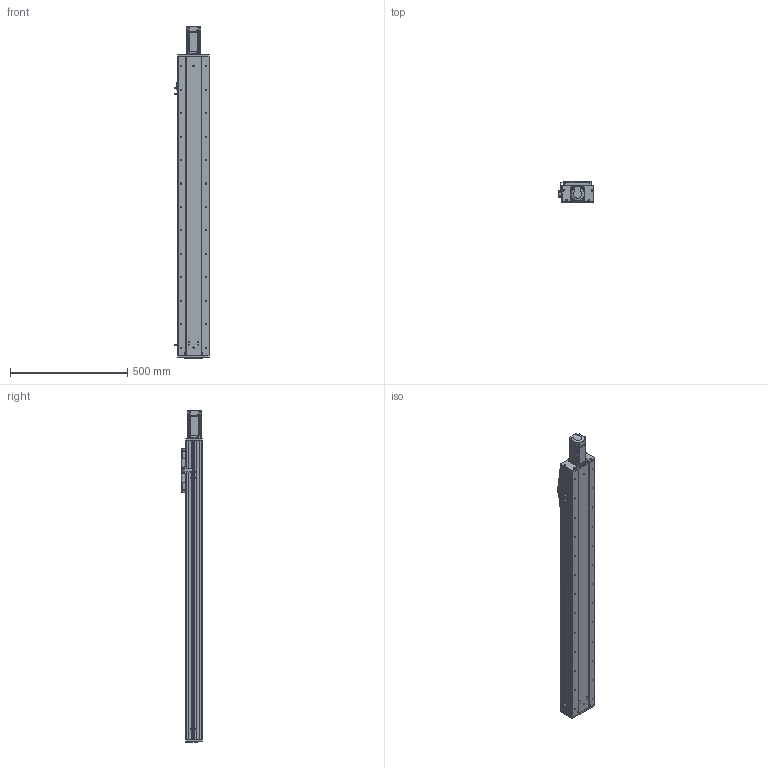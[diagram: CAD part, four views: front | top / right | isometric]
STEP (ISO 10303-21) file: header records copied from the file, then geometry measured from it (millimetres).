
FILE_DESCRIPTION (( 'STEP AP203' ), '1' );
FILE_NAME ('RY140F-L2020-300-MK.SLDASM_1000.step', '2021-03-02T06:24:25', ( '盈信电脑' ), ( '东莞市道滘镇水果街19号' ), 'SwSTEP 2.0', 'SolidWorks 2012', '' );
FILE_SCHEMA (( 'CONFIG_CONTROL_DESIGN' ));
Length unit declared in the file: millimetre
Products named in the file (18): RY140F-L2020-300-MK.SLDASM_1000; 侐源滅袉蝶; 滅袉蝶18-10; RY140F-詩湍揤え; RY140F-672覜茼んえ; 覜茼ん672; 侂狟400W侜督萇儂; 15; RY140F-直连前盖板(铝件）; RY140F-后盖板(铝件）; RY140F-直连型材铝滑块(16丝杆); RY100F-詩湍揤踡謫; RY140F-滅鳥奻裔; RY140F-直连型材铝滑块连接座; RY140F-詩湍幗謫粣; RY140F-300-MK眻蟀倰第菁釱_1000; RY140F-300-MK眻蟀詩湍_1000; RY140F-300-MK眻蟀倰第奻裔啣_1000
Assembly tree (22 placements, depth 3):
  RY140F-L2020-300-MK.SLDASM_1000
    RY140F-300-MK眻蟀倰第菁釱_1000
    RY140F-300-MK眻蟀倰第奻裔啣_1000  x2
    RY140F-300-MK眻蟀詩湍_1000
    RY140F-直连型材铝滑块连接座
    RY140F-滅鳥奻裔
    RY140F-詩湍幗謫粣
    RY100F-詩湍揤踡謫
    RY140F-直连型材铝滑块(16丝杆)
    RY140F-直连前盖板(铝件）
    RY140F-后盖板(铝件）
    侂狟400W侜督萇儂
      15
    覜茼ん672  x3
    RY140F-672覜茼んえ
    RY140F-詩湍揤え  x2
    滅袉蝶18-10
    侐源滅袉蝶  x2
Bounding box: 148.7 x 91 x 1415.5 mm (x, y, z)
Volume: 4749527.4 mm3; surface area: 1653801.3 mm2
Topology: 21 solids, 21 shells, 2012 faces, 5529 edges, 3530 vertices
Faces by surface type: cylinder 926, plane 854, cone 210, bspline 18, torus 4
Entity records: 58314 total; most frequent: CARTESIAN_POINT 11639, DIRECTION 9556, ORIENTED_EDGE 9142, EDGE_CURVE 4571, AXIS2_PLACEMENT_3D 3435, VERTEX_POINT 2998, VECTOR 2686, LINE 2686
